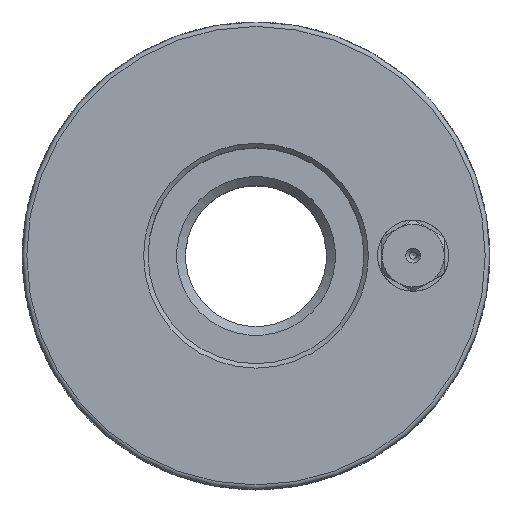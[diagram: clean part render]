
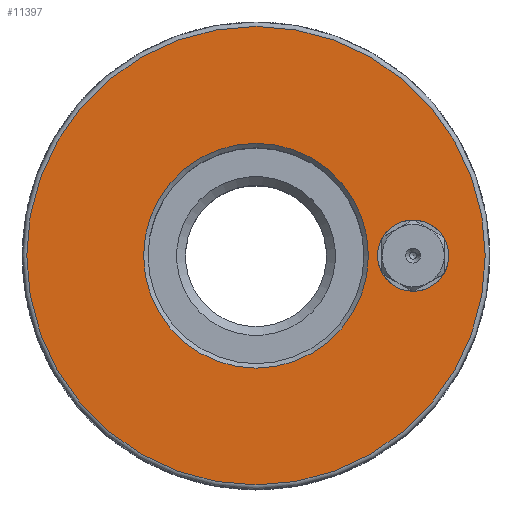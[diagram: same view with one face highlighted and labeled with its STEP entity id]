
A CAD part, top view. The second image highlights one B-rep face of the part: STEP entity #11397.
In plain terms, the highlighted planar face has unit normal (0, 0, 1).
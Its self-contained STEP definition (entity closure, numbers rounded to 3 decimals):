
#456=PLANE('',#12614);
#5812=ORIENTED_EDGE('',*,*,#7592,.T.);
#5813=ORIENTED_EDGE('',*,*,#7593,.T.);
#5814=ORIENTED_EDGE('',*,*,#7594,.T.);
#7592=EDGE_CURVE('',#8737,#8737,#9193,.F.);
#7593=EDGE_CURVE('',#8738,#8738,#9194,.T.);
#7594=EDGE_CURVE('',#8739,#8739,#9195,.T.);
#8737=VERTEX_POINT('',#19363);
#8738=VERTEX_POINT('',#19365);
#8739=VERTEX_POINT('',#19367);
#9193=CIRCLE('',#12615,51.5);
#9194=CIRCLE('',#12616,25.25);
#9195=CIRCLE('',#12617,8.);
#9823=EDGE_LOOP('',(#5812));
#9824=EDGE_LOOP('',(#5813));
#9825=EDGE_LOOP('',(#5814));
#10531=FACE_BOUND('',#9823,.T.);
#10532=FACE_BOUND('',#9824,.T.);
#10533=FACE_BOUND('',#9825,.T.);
#11397=ADVANCED_FACE('',(#10531,#10532,#10533),#456,.F.);
#12614=AXIS2_PLACEMENT_3D('',#19361,#15670,#15671);
#12615=AXIS2_PLACEMENT_3D('',#19362,#15672,#15673);
#12616=AXIS2_PLACEMENT_3D('',#19364,#15674,#15675);
#12617=AXIS2_PLACEMENT_3D('',#19366,#15676,#15677);
#15670=DIRECTION('',(0.,0.,-1.));
#15671=DIRECTION('',(-1.,0.,0.));
#15672=DIRECTION('',(0.,0.,-1.));
#15673=DIRECTION('',(-1.,0.,0.));
#15674=DIRECTION('',(0.,0.,-1.));
#15675=DIRECTION('',(-1.,0.,0.));
#15676=DIRECTION('',(0.,0.,-1.));
#15677=DIRECTION('',(-1.,0.,0.));
#19361=CARTESIAN_POINT('',(52.5,0.,44.));
#19362=CARTESIAN_POINT('',(0.,0.,44.));
#19363=CARTESIAN_POINT('',(-51.5,0.,44.));
#19364=CARTESIAN_POINT('',(0.,0.,44.));
#19365=CARTESIAN_POINT('',(-25.25,0.,44.));
#19366=CARTESIAN_POINT('',(35.3,0.,44.));
#19367=CARTESIAN_POINT('',(27.3,0.,44.));
